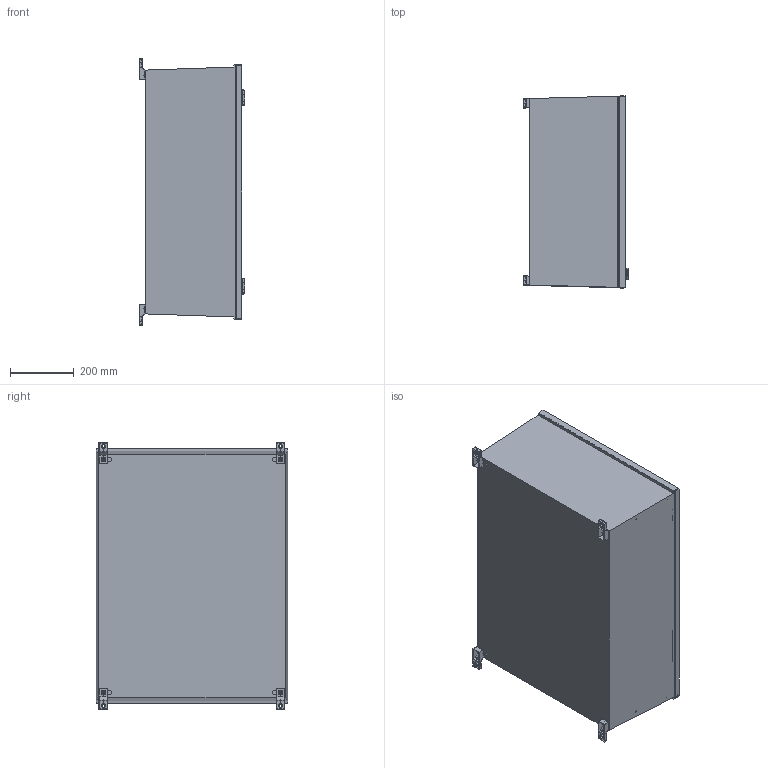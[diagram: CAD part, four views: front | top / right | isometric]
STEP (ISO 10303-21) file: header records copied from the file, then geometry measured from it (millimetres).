
FILE_DESCRIPTION (( 'STEP AP203' ), '1' );
FILE_NAME ('CN5N0863 simple.STEP', '2026-07-14T10:36:27', ( '' ), ( '' ), 'SwSTEP 2.0', 'SolidWorks 2022', '' );
FILE_SCHEMA (( 'CONFIG_CONTROL_DESIGN' ));
Products named in the file (1): CN5N0863 simple
Bounding box: 331.94 x 600.6 x 836.4 mm (x, y, z)
Volume: 8316977.1 mm3; surface area: 3893745.4 mm2
Topology: 58 solids, 58 shells, 5753 faces, 14876 edges, 9334 vertices
Faces by surface type: plane 2489, cylinder 1838, bspline 732, cone 324, torus 302, sphere 68
Entity records: 285447 total; most frequent: CARTESIAN_POINT 151137, ORIENTED_EDGE 29552, DIRECTION 25837, EDGE_CURVE 14776, VERTEX_POINT 9328, AXIS2_PLACEMENT_3D 8698, VECTOR 8441, LINE 8441
